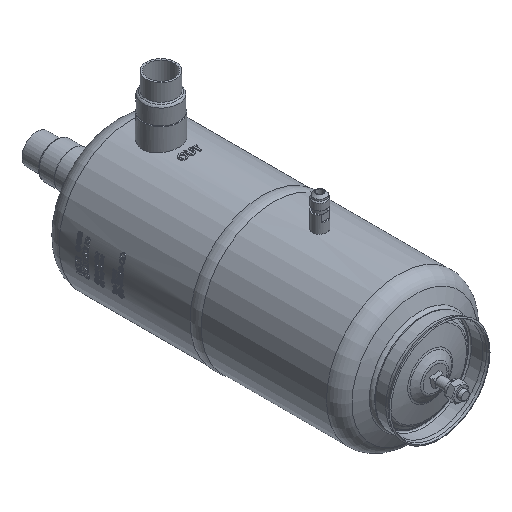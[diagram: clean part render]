
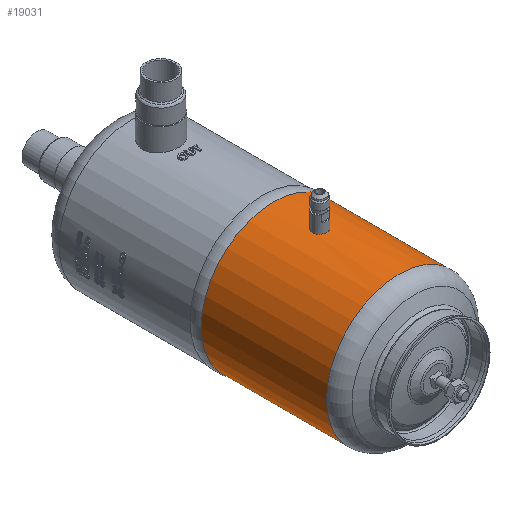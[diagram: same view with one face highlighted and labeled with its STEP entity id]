
A CAD part, isometric view. The second image highlights one B-rep face of the part: STEP entity #19031.
In plain terms, the highlighted cylindrical face has radius 80 mm (diameter 160 mm), a full revolution.
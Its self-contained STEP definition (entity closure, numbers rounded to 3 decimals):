
#737=CIRCLE('',#20351,80.);
#761=CIRCLE('',#20411,80.);
#1307=FACE_BOUND('',#4472,.T.);
#1308=FACE_BOUND('',#4473,.T.);
#2152=B_SPLINE_CURVE_WITH_KNOTS('',3,(#41884,#41885,#41886,#41887,#41888,
#41889,#41890,#41891,#41892,#41893,#41894,#41895,#41896,#41897,#41898,#41899,
#41900,#41901,#41902),.UNSPECIFIED.,.F.,.F.,(4,2,2,2,3,2,2,2,4),(3.619,
3.92,4.222,4.523,4.825,5.127,
5.428,5.73,6.031),.UNSPECIFIED.);
#2153=B_SPLINE_CURVE_WITH_KNOTS('',3,(#41903,#41904,#41905,#41906,#41907,
#41908,#41909,#41910,#41911,#41912,#41913,#41914,#41915,#41916,#41917,#41918,
#41919,#41920),.UNSPECIFIED.,.F.,.F.,(4,2,2,2,2,2,2,2,4),(1.206,
1.508,1.809,2.111,2.413,2.714,
3.016,3.317,3.619),.UNSPECIFIED.);
#2247=CYLINDRICAL_SURFACE('',#20410,80.);
#3288=FACE_OUTER_BOUND('',#4471,.T.);
#4471=EDGE_LOOP('',(#17338));
#4472=EDGE_LOOP('',(#17339,#17340));
#4473=EDGE_LOOP('',(#17341));
#8917=VERTEX_POINT('',#41719);
#8957=VERTEX_POINT('',#41882);
#8958=VERTEX_POINT('',#41883);
#8959=VERTEX_POINT('',#41921);
#11716=EDGE_CURVE('',#8917,#8917,#737,.T.);
#11775=EDGE_CURVE('',#8957,#8958,#2152,.T.);
#11776=EDGE_CURVE('',#8958,#8957,#2153,.T.);
#11777=EDGE_CURVE('',#8959,#8959,#761,.T.);
#17338=ORIENTED_EDGE('',*,*,#11716,.T.);
#17339=ORIENTED_EDGE('',*,*,#11775,.F.);
#17340=ORIENTED_EDGE('',*,*,#11776,.F.);
#17341=ORIENTED_EDGE('',*,*,#11777,.F.);
#19031=ADVANCED_FACE('',(#3288,#1307,#1308),#2247,.T.);
#20351=AXIS2_PLACEMENT_3D('',#41720,#24276,#24277);
#20410=AXIS2_PLACEMENT_3D('',#41881,#24409,#24410);
#20411=AXIS2_PLACEMENT_3D('',#41922,#24411,#24412);
#24276=DIRECTION('center_axis',(0.,-1.,0.));
#24277=DIRECTION('ref_axis',(0.,0.,
1.));
#24409=DIRECTION('center_axis',(0.,-1.,0.));
#24410=DIRECTION('ref_axis',(0.,0.,
1.));
#24411=DIRECTION('center_axis',(0.,-1.,0.));
#24412=DIRECTION('ref_axis',(0.,0.,
1.));
#41719=CARTESIAN_POINT('',(0.,169.965,-80.));
#41720=CARTESIAN_POINT('Origin',(0.,169.965,
0.));
#41881=CARTESIAN_POINT('Origin',(0.,102.533,
0.));
#41882=CARTESIAN_POINT('',(0.,127.254,80.));
#41883=CARTESIAN_POINT('',(0.,111.254,80.));
#41884=CARTESIAN_POINT('Ctrl Pts',(0.,127.254,
80.));
#41885=CARTESIAN_POINT('Ctrl Pts',(-1.005,127.254,80.));
#41886=CARTESIAN_POINT('Ctrl Pts',(-2.077,127.053,79.979));
#41887=CARTESIAN_POINT('Ctrl Pts',(-4.048,126.236,79.904));
#41888=CARTESIAN_POINT('Ctrl Pts',(-4.947,125.621,79.85));
#41889=CARTESIAN_POINT('Ctrl Pts',(-6.367,124.201,79.749));
#41890=CARTESIAN_POINT('Ctrl Pts',(-6.982,123.302,79.696));
#41891=CARTESIAN_POINT('Ctrl Pts',(-7.799,121.331,79.62));
#41892=CARTESIAN_POINT('Ctrl Pts',(-8.,120.259,79.599));
#41893=CARTESIAN_POINT('Ctrl Pts',(-8.,119.254,79.599));
#41894=CARTESIAN_POINT('Ctrl Pts',(-8.,118.249,79.599));
#41895=CARTESIAN_POINT('Ctrl Pts',(-7.799,117.177,79.62));
#41896=CARTESIAN_POINT('Ctrl Pts',(-6.982,115.206,79.696));
#41897=CARTESIAN_POINT('Ctrl Pts',(-6.367,114.307,79.749));
#41898=CARTESIAN_POINT('Ctrl Pts',(-4.947,112.887,79.85));
#41899=CARTESIAN_POINT('Ctrl Pts',(-4.048,112.272,79.904));
#41900=CARTESIAN_POINT('Ctrl Pts',(-2.077,111.455,79.979));
#41901=CARTESIAN_POINT('Ctrl Pts',(-1.005,111.254,80.));
#41902=CARTESIAN_POINT('Ctrl Pts',(0.,111.254,
80.));
#41903=CARTESIAN_POINT('Ctrl Pts',(0.,111.254,
80.));
#41904=CARTESIAN_POINT('Ctrl Pts',(1.005,111.254,80.));
#41905=CARTESIAN_POINT('Ctrl Pts',(2.077,111.455,79.979));
#41906=CARTESIAN_POINT('Ctrl Pts',(4.048,112.272,79.904));
#41907=CARTESIAN_POINT('Ctrl Pts',(4.947,112.887,79.85));
#41908=CARTESIAN_POINT('Ctrl Pts',(6.367,114.307,79.749));
#41909=CARTESIAN_POINT('Ctrl Pts',(6.982,115.206,79.696));
#41910=CARTESIAN_POINT('Ctrl Pts',(7.799,117.177,79.62));
#41911=CARTESIAN_POINT('Ctrl Pts',(8.,118.249,79.599));
#41912=CARTESIAN_POINT('Ctrl Pts',(8.,120.259,79.599));
#41913=CARTESIAN_POINT('Ctrl Pts',(7.799,121.331,79.62));
#41914=CARTESIAN_POINT('Ctrl Pts',(6.982,123.302,79.696));
#41915=CARTESIAN_POINT('Ctrl Pts',(6.367,124.201,79.749));
#41916=CARTESIAN_POINT('Ctrl Pts',(4.947,125.621,79.85));
#41917=CARTESIAN_POINT('Ctrl Pts',(4.048,126.236,79.904));
#41918=CARTESIAN_POINT('Ctrl Pts',(2.077,127.053,79.979));
#41919=CARTESIAN_POINT('Ctrl Pts',(1.005,127.254,80.));
#41920=CARTESIAN_POINT('Ctrl Pts',(0.,127.254,
80.));
#41921=CARTESIAN_POINT('',(0.,31.812,80.));
#41922=CARTESIAN_POINT('Origin',(0.,31.812,
0.));
